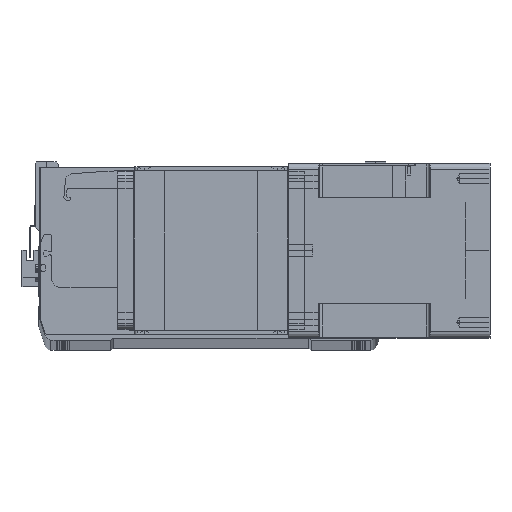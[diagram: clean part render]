
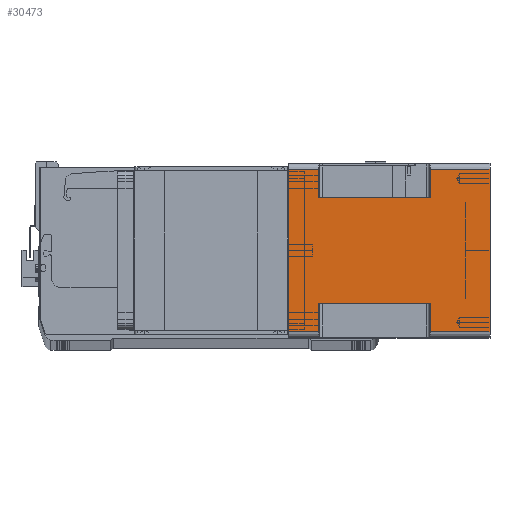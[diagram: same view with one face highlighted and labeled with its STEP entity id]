
A CAD part, top view. The second image highlights one B-rep face of the part: STEP entity #30473.
In plain terms, the highlighted planar face has unit normal (0, 0, 1) as drawn and (1, 0, 0) by its records, which use the part's own axes.
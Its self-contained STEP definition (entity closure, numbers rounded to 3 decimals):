
#205 = ORIENTED_EDGE ( 'NONE', *, *, #8759, .T. ) ;
#944 = CARTESIAN_POINT ( 'NONE',  ( 71., -66., -115.5 ) ) ;
#1269 = CARTESIAN_POINT ( 'NONE',  ( 71., 43., -115.5 ) ) ;
#1441 = LINE ( 'NONE', #36094, #5208 ) ;
#1605 = EDGE_CURVE ( 'NONE', #12082, #10638, #26058, .T. ) ;
#1868 = CARTESIAN_POINT ( 'NONE',  ( 71., -66., -164. ) ) ;
#2019 = CARTESIAN_POINT ( 'NONE',  ( 71., 66., -24.5 ) ) ;
#2358 = EDGE_CURVE ( 'NONE', #27971, #37715, #6708, .T. ) ;
#2476 = CARTESIAN_POINT ( 'NONE',  ( 71., -66., -164. ) ) ;
#3932 = CARTESIAN_POINT ( 'NONE',  ( 71., -43., -24.5 ) ) ;
#3988 = FACE_OUTER_BOUND ( 'NONE', #10431, .T. ) ;
#3989 = VECTOR ( 'NONE', #33842, 1000. ) ;
#5014 = ORIENTED_EDGE ( 'NONE', *, *, #12078, .F. ) ;
#5208 = VECTOR ( 'NONE', #36220, 1000. ) ;
#5252 = VECTOR ( 'NONE', #35884, 1000. ) ;
#5682 = VERTEX_POINT ( 'NONE', #29713 ) ;
#5852 = PLANE ( 'NONE',  #28579 ) ;
#6024 = VERTEX_POINT ( 'NONE', #19808 ) ;
#6708 = LINE ( 'NONE', #34399, #28820 ) ;
#7132 = DIRECTION ( 'NONE',  ( 0., 1., 0. ) ) ;
#7435 = EDGE_CURVE ( 'NONE', #31144, #5682, #13943, .T. ) ;
#8759 = EDGE_CURVE ( 'NONE', #37715, #28148, #1441, .T. ) ;
#8888 = DIRECTION ( 'NONE',  ( 1., 0., 0. ) ) ;
#10026 = LINE ( 'NONE', #15986, #25084 ) ;
#10127 = DIRECTION ( 'NONE',  ( 0., 0., -1. ) ) ;
#10431 = EDGE_LOOP ( 'NONE', ( #31730, #30413, #22000, #13718, #18483, #205, #16943, #16247, #21312, #5014, #24289, #28394 ) ) ;
#10432 = DIRECTION ( 'NONE',  ( 0., 1., 0. ) ) ;
#10638 = VERTEX_POINT ( 'NONE', #944 ) ;
#11920 = CARTESIAN_POINT ( 'NONE',  ( 71., -66., -115.5 ) ) ;
#11942 = DIRECTION ( 'NONE',  ( 0., 1., 0. ) ) ;
#12078 = EDGE_CURVE ( 'NONE', #37568, #5682, #10026, .T. ) ;
#12082 = VERTEX_POINT ( 'NONE', #22106 ) ;
#13529 = EDGE_CURVE ( 'NONE', #12082, #27971, #29550, .T. ) ;
#13718 = ORIENTED_EDGE ( 'NONE', *, *, #13529, .T. ) ;
#13943 = LINE ( 'NONE', #38971, #35606 ) ;
#14402 = EDGE_CURVE ( 'NONE', #24740, #31144, #19541, .T. ) ;
#14441 = VECTOR ( 'NONE', #33470, 1000. ) ;
#15031 = CARTESIAN_POINT ( 'NONE',  ( 71., 66., -164. ) ) ;
#15986 = CARTESIAN_POINT ( 'NONE',  ( 71., -66., 0. ) ) ;
#16197 = VECTOR ( 'NONE', #27060, 1000. ) ;
#16247 = ORIENTED_EDGE ( 'NONE', *, *, #14402, .T. ) ;
#16943 = ORIENTED_EDGE ( 'NONE', *, *, #23286, .F. ) ;
#17472 = CARTESIAN_POINT ( 'NONE',  ( 71., 43., -24.5 ) ) ;
#17722 = CARTESIAN_POINT ( 'NONE',  ( 71., -66., -164. ) ) ;
#18050 = VECTOR ( 'NONE', #26878, 1000. ) ;
#18373 = DIRECTION ( 'NONE',  ( 0., 0., 1. ) ) ;
#18483 = ORIENTED_EDGE ( 'NONE', *, *, #2358, .T. ) ;
#19326 = EDGE_CURVE ( 'NONE', #34860, #10638, #23321, .T. ) ;
#19541 = LINE ( 'NONE', #34131, #21918 ) ;
#19808 = CARTESIAN_POINT ( 'NONE',  ( 71., -43., -24.5 ) ) ;
#20210 = CARTESIAN_POINT ( 'NONE',  ( 71., -66., 0. ) ) ;
#20520 = LINE ( 'NONE', #3932, #3989 ) ;
#21194 = CARTESIAN_POINT ( 'NONE',  ( 71., -66., -24.5 ) ) ;
#21312 = ORIENTED_EDGE ( 'NONE', *, *, #7435, .T. ) ;
#21773 = EDGE_CURVE ( 'NONE', #25388, #37568, #26951, .T. ) ;
#21918 = VECTOR ( 'NONE', #10432, 1000. ) ;
#22000 = ORIENTED_EDGE ( 'NONE', *, *, #1605, .F. ) ;
#22106 = CARTESIAN_POINT ( 'NONE',  ( 71., -66., -164. ) ) ;
#23286 = EDGE_CURVE ( 'NONE', #24740, #28148, #25832, .T. ) ;
#23321 = LINE ( 'NONE', #11920, #14441 ) ;
#23942 = DIRECTION ( 'NONE',  ( 0., 0., 1. ) ) ;
#24099 = LINE ( 'NONE', #38389, #5252 ) ;
#24289 = ORIENTED_EDGE ( 'NONE', *, *, #21773, .F. ) ;
#24740 = VERTEX_POINT ( 'NONE', #17472 ) ;
#25084 = VECTOR ( 'NONE', #7132, 1000. ) ;
#25388 = VERTEX_POINT ( 'NONE', #21194 ) ;
#25832 = LINE ( 'NONE', #36906, #38127 ) ;
#26058 = LINE ( 'NONE', #2476, #16197 ) ;
#26146 = EDGE_CURVE ( 'NONE', #25388, #6024, #20520, .T. ) ;
#26878 = DIRECTION ( 'NONE',  ( 0., 0., 1. ) ) ;
#26889 = CARTESIAN_POINT ( 'NONE',  ( 71., -66., -164. ) ) ;
#26951 = LINE ( 'NONE', #17722, #18050 ) ;
#27060 = DIRECTION ( 'NONE',  ( 0., 0., 1. ) ) ;
#27527 = EDGE_CURVE ( 'NONE', #34860, #6024, #24099, .T. ) ;
#27971 = VERTEX_POINT ( 'NONE', #15031 ) ;
#28148 = VERTEX_POINT ( 'NONE', #1269 ) ;
#28394 = ORIENTED_EDGE ( 'NONE', *, *, #26146, .T. ) ;
#28559 = DIRECTION ( 'NONE',  ( 0., 1., 0. ) ) ;
#28579 = AXIS2_PLACEMENT_3D ( 'NONE', #26889, #8888, #11942 ) ;
#28820 = VECTOR ( 'NONE', #18373, 1000. ) ;
#29550 = LINE ( 'NONE', #1868, #30062 ) ;
#29713 = CARTESIAN_POINT ( 'NONE',  ( 71., 66., 0. ) ) ;
#30062 = VECTOR ( 'NONE', #28559, 1000. ) ;
#30413 = ORIENTED_EDGE ( 'NONE', *, *, #19326, .T. ) ;
#30473 = ADVANCED_FACE ( 'NONE', ( #3988 ), #5852, .T. ) ;
#31144 = VERTEX_POINT ( 'NONE', #2019 ) ;
#31730 = ORIENTED_EDGE ( 'NONE', *, *, #27527, .F. ) ;
#32442 = CARTESIAN_POINT ( 'NONE',  ( 71., 66., -115.5 ) ) ;
#33470 = DIRECTION ( 'NONE',  ( 0., -1., 0. ) ) ;
#33842 = DIRECTION ( 'NONE',  ( 0., 1., 0. ) ) ;
#34131 = CARTESIAN_POINT ( 'NONE',  ( 71., -66., -24.5 ) ) ;
#34399 = CARTESIAN_POINT ( 'NONE',  ( 71., 66., -164. ) ) ;
#34608 = CARTESIAN_POINT ( 'NONE',  ( 71., -43., -115.5 ) ) ;
#34860 = VERTEX_POINT ( 'NONE', #34608 ) ;
#35606 = VECTOR ( 'NONE', #23942, 1000. ) ;
#35884 = DIRECTION ( 'NONE',  ( 0., 0., 1. ) ) ;
#36094 = CARTESIAN_POINT ( 'NONE',  ( 71., 43., -115.5 ) ) ;
#36220 = DIRECTION ( 'NONE',  ( 0., -1., 0. ) ) ;
#36906 = CARTESIAN_POINT ( 'NONE',  ( 71., 43., -164. ) ) ;
#37568 = VERTEX_POINT ( 'NONE', #20210 ) ;
#37715 = VERTEX_POINT ( 'NONE', #32442 ) ;
#38127 = VECTOR ( 'NONE', #10127, 1000. ) ;
#38389 = CARTESIAN_POINT ( 'NONE',  ( 71., -43., -164. ) ) ;
#38971 = CARTESIAN_POINT ( 'NONE',  ( 71., 66., -164. ) ) ;
